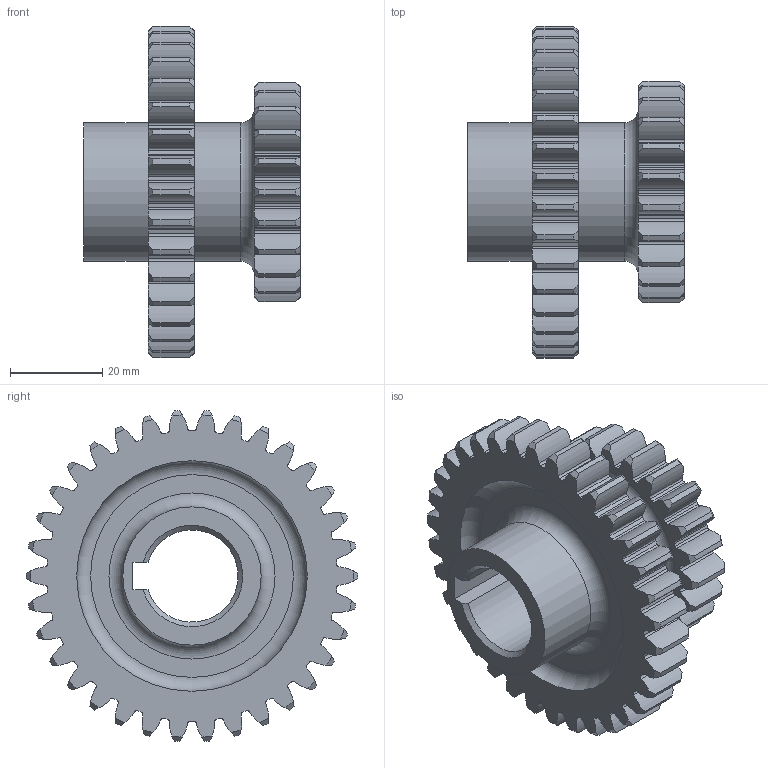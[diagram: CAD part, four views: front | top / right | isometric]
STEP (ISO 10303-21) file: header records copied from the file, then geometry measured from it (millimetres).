
FILE_DESCRIPTION(/* description */ (''),/* implementation_level */ '2;1');
FILE_NAME(/* name */ 'D:\390310E1004 최윤석\390310E1004 - 스퍼기어.stp',/* time_stamp */ '2019-03-22T16:23:32+09:00',/* author */ ('hi'),/* organization */ (''),/* preprocessor_version */ 'ST-DEVELOPER v15.2',/* originating_system */ 'Autodesk Inventor 2014',/* authorisation */ '');
FILE_SCHEMA (('AUTOMOTIVE_DESIGN { 1 0 10303 214 3 1 1 }'));
Length unit declared in the file: millimetre
Products named in the file (1): 기어
Bounding box: 47 x 72 x 71.79 mm (x, y, z)
Volume: 47913.8 mm3; surface area: 21230.5 mm2
Topology: 1 solids, 1 shells, 468 faces, 1380 edges, 919 vertices
Faces by surface type: cylinder 339, cone 114, plane 10, torus 5
Full cylindrical faces by diameter (mm): 30 x2
Entity records: 16269 total; most frequent: CARTESIAN_POINT 3441, DIRECTION 2882, ORIENTED_EDGE 2746, EDGE_CURVE 1373, AXIS2_PLACEMENT_3D 1268, VERTEX_POINT 919, CIRCLE 799, EDGE_LOOP 482
